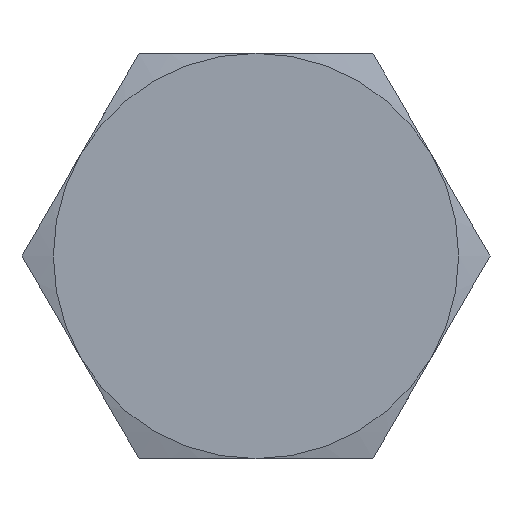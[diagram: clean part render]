
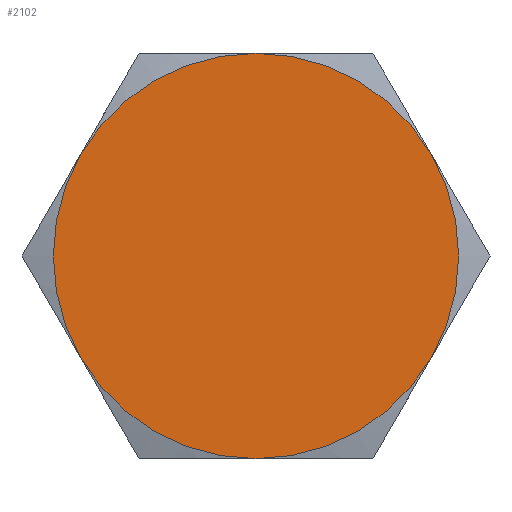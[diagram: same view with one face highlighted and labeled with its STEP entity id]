
A CAD part, left-side view. The second image highlights one B-rep face of the part: STEP entity #2102.
In plain terms, the highlighted planar face has unit normal (-1, 0, 0).
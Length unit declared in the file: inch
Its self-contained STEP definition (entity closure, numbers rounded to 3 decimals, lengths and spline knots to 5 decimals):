
#335=PLANE('',#2415);
#452=FACE_OUTER_BOUND('',#591,.T.);
#591=EDGE_LOOP('',(#1851,#1852,#1853,#1854,#1855,#1856));
#765=CIRCLE('',#2398,0.8125);
#766=CIRCLE('',#2400,0.8125);
#767=CIRCLE('',#2402,0.8125);
#768=CIRCLE('',#2404,0.8125);
#769=CIRCLE('',#2406,0.8125);
#770=CIRCLE('',#2408,0.8125);
#970=VERTEX_POINT('',#3939);
#971=VERTEX_POINT('',#3943);
#973=VERTEX_POINT('',#3950);
#975=VERTEX_POINT('',#3960);
#977=VERTEX_POINT('',#3973);
#979=VERTEX_POINT('',#3983);
#1254=EDGE_CURVE('',#970,#971,#765,.T.);
#1257=EDGE_CURVE('',#973,#970,#766,.T.);
#1260=EDGE_CURVE('',#975,#973,#767,.T.);
#1262=EDGE_CURVE('',#977,#975,#768,.T.);
#1265=EDGE_CURVE('',#979,#977,#769,.T.);
#1268=EDGE_CURVE('',#971,#979,#770,.T.);
#1851=ORIENTED_EDGE('',*,*,#1268,.T.);
#1852=ORIENTED_EDGE('',*,*,#1265,.T.);
#1853=ORIENTED_EDGE('',*,*,#1262,.T.);
#1854=ORIENTED_EDGE('',*,*,#1260,.T.);
#1855=ORIENTED_EDGE('',*,*,#1257,.T.);
#1856=ORIENTED_EDGE('',*,*,#1254,.T.);
#2102=ADVANCED_FACE('',(#452),#335,.F.);
#2398=AXIS2_PLACEMENT_3D('',#3947,#3019,#3020);
#2400=AXIS2_PLACEMENT_3D('',#3957,#3023,#3024);
#2402=AXIS2_PLACEMENT_3D('',#3967,#3027,#3028);
#2404=AXIS2_PLACEMENT_3D('',#3974,#3031,#3032);
#2406=AXIS2_PLACEMENT_3D('',#3984,#3035,#3036);
#2408=AXIS2_PLACEMENT_3D('',#3993,#3039,#3040);
#2415=AXIS2_PLACEMENT_3D('',#4009,#3059,#3060);
#3019=DIRECTION('center_axis',(-1.,0.,0.));
#3020=DIRECTION('ref_axis',(0.,0.,-1.));
#3023=DIRECTION('center_axis',(-1.,0.,0.));
#3024=DIRECTION('ref_axis',(0.,0.,-1.));
#3027=DIRECTION('center_axis',(-1.,0.,0.));
#3028=DIRECTION('ref_axis',(0.,0.,-1.));
#3031=DIRECTION('center_axis',(-1.,0.,0.));
#3032=DIRECTION('ref_axis',(0.,0.,-1.));
#3035=DIRECTION('center_axis',(-1.,0.,0.));
#3036=DIRECTION('ref_axis',(0.,0.,-1.));
#3039=DIRECTION('center_axis',(-1.,0.,0.));
#3040=DIRECTION('ref_axis',(0.,0.,-1.));
#3059=DIRECTION('center_axis',(1.,0.,0.));
#3060=DIRECTION('ref_axis',(0.,0.,-1.));
#3939=CARTESIAN_POINT('',(-0.5,-0.70365,0.40625));
#3943=CARTESIAN_POINT('',(-0.5,0.,0.8125));
#3947=CARTESIAN_POINT('Origin',(-0.5,0.,0.));
#3950=CARTESIAN_POINT('',(-0.5,-0.70365,-0.40625));
#3957=CARTESIAN_POINT('Origin',(-0.5,0.,0.));
#3960=CARTESIAN_POINT('',(-0.5,0.,-0.8125));
#3967=CARTESIAN_POINT('Origin',(-0.5,0.,0.));
#3973=CARTESIAN_POINT('',(-0.5,0.70365,-0.40625));
#3974=CARTESIAN_POINT('Origin',(-0.5,0.,0.));
#3983=CARTESIAN_POINT('',(-0.5,0.70365,0.40625));
#3984=CARTESIAN_POINT('Origin',(-0.5,0.,0.));
#3993=CARTESIAN_POINT('Origin',(-0.5,0.,0.));
#4009=CARTESIAN_POINT('Origin',(-0.5,0.,0.));
